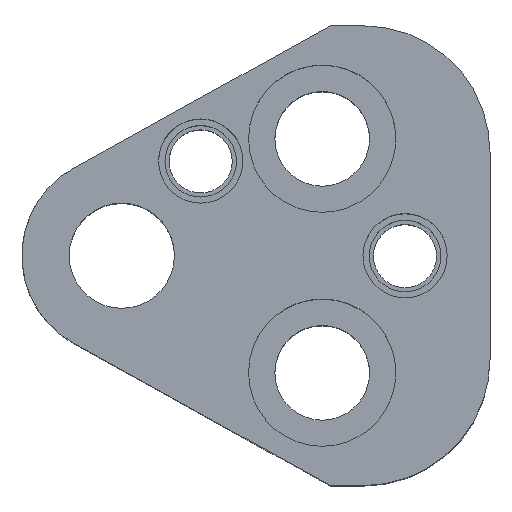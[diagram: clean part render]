
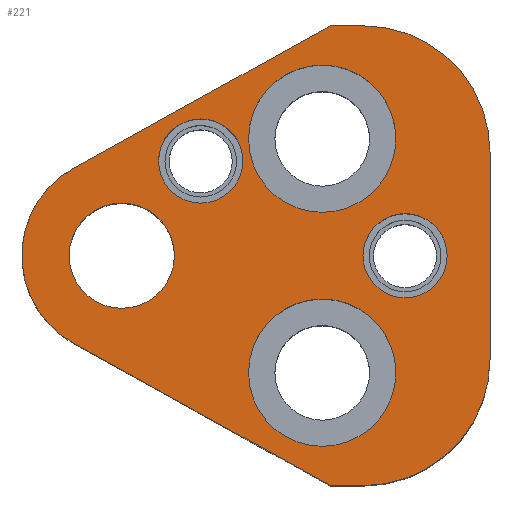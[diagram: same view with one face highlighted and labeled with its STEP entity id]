
A CAD part, top view. The second image highlights one B-rep face of the part: STEP entity #221.
In plain terms, the highlighted planar face has unit normal (0, 0, 1).
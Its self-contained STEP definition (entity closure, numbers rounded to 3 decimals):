
#104=FACE_BOUND('',#319,.T.);
#105=FACE_BOUND('',#320,.T.);
#106=FACE_BOUND('',#321,.T.);
#107=FACE_BOUND('',#322,.T.);
#108=FACE_BOUND('',#323,.T.);
#109=FACE_BOUND('',#324,.T.);
#149=CIRCLE('',#871,12.);
#151=CIRCLE('',#875,12.);
#161=CIRCLE('',#892,7.);
#163=CIRCLE('',#895,7.);
#165=CIRCLE('',#899,7.);
#167=CIRCLE('',#902,7.);
#169=CIRCLE('',#906,9.5);
#170=CIRCLE('',#907,4.);
#171=CIRCLE('',#908,4.);
#172=CIRCLE('',#909,4.);
#173=CIRCLE('',#910,4.);
#174=CIRCLE('',#911,5.);
#175=CIRCLE('',#912,5.);
#221=ADVANCED_FACE('',(#104,#105,#106,#107,#108,#109),#255,.T.);
#255=PLANE('',#913);
#319=EDGE_LOOP('',(#424,#425,#426,#427,#428,#429,#430,#431));
#320=EDGE_LOOP('',(#432,#433));
#321=EDGE_LOOP('',(#434,#435));
#322=EDGE_LOOP('',(#436,#437));
#323=EDGE_LOOP('',(#438,#439));
#324=EDGE_LOOP('',(#440,#441));
#424=ORIENTED_EDGE('',*,*,#696,.T.);
#425=ORIENTED_EDGE('',*,*,#654,.T.);
#426=ORIENTED_EDGE('',*,*,#658,.T.);
#427=ORIENTED_EDGE('',*,*,#661,.T.);
#428=ORIENTED_EDGE('',*,*,#664,.T.);
#429=ORIENTED_EDGE('',*,*,#667,.T.);
#430=ORIENTED_EDGE('',*,*,#670,.T.);
#431=ORIENTED_EDGE('',*,*,#697,.T.);
#432=ORIENTED_EDGE('',*,*,#698,.F.);
#433=ORIENTED_EDGE('',*,*,#699,.F.);
#434=ORIENTED_EDGE('',*,*,#700,.F.);
#435=ORIENTED_EDGE('',*,*,#701,.F.);
#436=ORIENTED_EDGE('',*,*,#694,.F.);
#437=ORIENTED_EDGE('',*,*,#690,.F.);
#438=ORIENTED_EDGE('',*,*,#688,.F.);
#439=ORIENTED_EDGE('',*,*,#684,.F.);
#440=ORIENTED_EDGE('',*,*,#702,.T.);
#441=ORIENTED_EDGE('',*,*,#703,.T.);
#581=VERTEX_POINT('',#1228);
#582=VERTEX_POINT('',#1230);
#585=VERTEX_POINT('',#1237);
#587=VERTEX_POINT('',#1243);
#589=VERTEX_POINT('',#1249);
#591=VERTEX_POINT('',#1255);
#593=VERTEX_POINT('',#1261);
#602=VERTEX_POINT('',#1290);
#603=VERTEX_POINT('',#1291);
#606=VERTEX_POINT('',#1303);
#607=VERTEX_POINT('',#1304);
#610=VERTEX_POINT('',#1316);
#611=VERTEX_POINT('',#1319);
#612=VERTEX_POINT('',#1320);
#613=VERTEX_POINT('',#1323);
#614=VERTEX_POINT('',#1324);
#615=VERTEX_POINT('',#1327);
#616=VERTEX_POINT('',#1328);
#654=EDGE_CURVE('',#582,#581,#764,.T.);
#658=EDGE_CURVE('',#581,#585,#149,.T.);
#661=EDGE_CURVE('',#585,#587,#769,.T.);
#664=EDGE_CURVE('',#587,#589,#151,.T.);
#667=EDGE_CURVE('',#589,#591,#773,.T.);
#670=EDGE_CURVE('',#591,#593,#776,.T.);
#684=EDGE_CURVE('',#602,#603,#161,.T.);
#688=EDGE_CURVE('',#603,#602,#163,.T.);
#690=EDGE_CURVE('',#606,#607,#165,.T.);
#694=EDGE_CURVE('',#607,#606,#167,.T.);
#696=EDGE_CURVE('',#610,#582,#786,.T.);
#697=EDGE_CURVE('',#593,#610,#169,.T.);
#698=EDGE_CURVE('',#611,#612,#170,.T.);
#699=EDGE_CURVE('',#612,#611,#171,.T.);
#700=EDGE_CURVE('',#613,#614,#172,.T.);
#701=EDGE_CURVE('',#614,#613,#173,.T.);
#702=EDGE_CURVE('',#615,#616,#174,.T.);
#703=EDGE_CURVE('',#616,#615,#175,.T.);
#764=LINE('',#1229,#817);
#769=LINE('',#1244,#822);
#773=LINE('',#1256,#826);
#776=LINE('',#1262,#829);
#786=LINE('',#1315,#839);
#817=VECTOR('',#973,1.);
#822=VECTOR('',#986,1.);
#826=VECTOR('',#998,1.);
#829=VECTOR('',#1003,1.);
#839=VECTOR('',#1067,1.);
#871=AXIS2_PLACEMENT_3D('',#1238,#979,#980);
#875=AXIS2_PLACEMENT_3D('',#1250,#991,#992);
#892=AXIS2_PLACEMENT_3D('',#1289,#1035,#1036);
#895=AXIS2_PLACEMENT_3D('',#1298,#1043,#1044);
#899=AXIS2_PLACEMENT_3D('',#1302,#1051,#1052);
#902=AXIS2_PLACEMENT_3D('',#1311,#1059,#1060);
#906=AXIS2_PLACEMENT_3D('',#1317,#1068,#1069);
#907=AXIS2_PLACEMENT_3D('',#1318,#1070,#1071);
#908=AXIS2_PLACEMENT_3D('',#1321,#1072,#1073);
#909=AXIS2_PLACEMENT_3D('',#1322,#1074,#1075);
#910=AXIS2_PLACEMENT_3D('',#1325,#1076,#1077);
#911=AXIS2_PLACEMENT_3D('',#1326,#1078,#1079);
#912=AXIS2_PLACEMENT_3D('',#1329,#1080,#1081);
#913=AXIS2_PLACEMENT_3D('',#1330,#1082,#1083);
#973=DIRECTION('',(1.,0.,0.));
#979=DIRECTION('',(0.,0.,1.));
#980=DIRECTION('',(-0.707,0.707,0.));
#986=DIRECTION('',(0.,1.,0.));
#991=DIRECTION('',(0.,0.,1.));
#992=DIRECTION('',(-0.707,-0.707,0.));
#998=DIRECTION('',(-1.,0.,0.));
#1003=DIRECTION('',(-0.875,-0.485,0.));
#1035=DIRECTION('',(0.,0.,1.));
#1036=DIRECTION('',(-1.,0.,0.));
#1043=DIRECTION('',(0.,0.,1.));
#1044=DIRECTION('',(1.,0.,0.));
#1051=DIRECTION('',(0.,0.,1.));
#1052=DIRECTION('',(-1.,0.,0.));
#1059=DIRECTION('',(0.,0.,1.));
#1060=DIRECTION('',(1.,0.,0.));
#1067=DIRECTION('',(0.875,-0.485,0.));
#1068=DIRECTION('',(0.,0.,1.));
#1069=DIRECTION('',(1.,0.,0.));
#1070=DIRECTION('',(0.,0.,1.));
#1071=DIRECTION('',(1.,0.,0.));
#1072=DIRECTION('',(0.,0.,1.));
#1073=DIRECTION('',(-1.,0.,0.));
#1074=DIRECTION('',(0.,0.,1.));
#1075=DIRECTION('',(1.,0.,0.));
#1076=DIRECTION('',(0.,0.,1.));
#1077=DIRECTION('',(-1.,0.,0.));
#1078=DIRECTION('',(0.,0.,-1.));
#1079=DIRECTION('',(-1.,0.,0.));
#1080=DIRECTION('',(0.,0.,-1.));
#1081=DIRECTION('',(1.,0.,0.));
#1082=DIRECTION('',(0.,0.,1.));
#1083=DIRECTION('',(-0.875,0.485,0.));
#1228=CARTESIAN_POINT('',(23.,-21.85,32.));
#1229=CARTESIAN_POINT('',(19.823,-21.85,32.));
#1230=CARTESIAN_POINT('',(19.823,-21.85,32.));
#1237=CARTESIAN_POINT('',(35.,-9.85,32.));
#1238=CARTESIAN_POINT('',(23.,-9.85,32.));
#1243=CARTESIAN_POINT('',(35.,9.85,32.));
#1244=CARTESIAN_POINT('',(35.,9.85,32.));
#1249=CARTESIAN_POINT('',(23.,21.85,32.));
#1250=CARTESIAN_POINT('',(23.,9.85,32.));
#1255=CARTESIAN_POINT('',(19.823,21.85,32.));
#1256=CARTESIAN_POINT('',(19.823,21.85,32.));
#1261=CARTESIAN_POINT('',(-4.606,8.309,32.));
#1262=CARTESIAN_POINT('',(19.823,21.85,32.));
#1289=CARTESIAN_POINT('',(19.05,-11.12,32.));
#1290=CARTESIAN_POINT('',(19.05,-18.12,32.));
#1291=CARTESIAN_POINT('',(19.05,-4.12,32.));
#1298=CARTESIAN_POINT('',(19.05,-11.12,32.));
#1302=CARTESIAN_POINT('',(19.05,11.12,32.));
#1303=CARTESIAN_POINT('',(19.05,4.12,32.));
#1304=CARTESIAN_POINT('',(19.05,18.12,32.));
#1311=CARTESIAN_POINT('',(19.05,11.12,32.));
#1315=CARTESIAN_POINT('',(19.823,-21.85,32.));
#1316=CARTESIAN_POINT('',(-4.606,-8.309,32.));
#1317=CARTESIAN_POINT('',(0.,0.,32.));
#1318=CARTESIAN_POINT('',(26.925,0.,32.));
#1319=CARTESIAN_POINT('',(26.925,4.,32.));
#1320=CARTESIAN_POINT('',(26.925,-4.,32.));
#1321=CARTESIAN_POINT('',(26.925,0.,32.));
#1322=CARTESIAN_POINT('',(7.5,9.,32.));
#1323=CARTESIAN_POINT('',(7.5,13.,32.));
#1324=CARTESIAN_POINT('',(7.5,5.,32.));
#1325=CARTESIAN_POINT('',(7.5,9.,32.));
#1326=CARTESIAN_POINT('',(0.,0.,32.));
#1327=CARTESIAN_POINT('',(0.,5.,32.));
#1328=CARTESIAN_POINT('',(0.,-5.,32.));
#1329=CARTESIAN_POINT('',(0.,0.,32.));
#1330=CARTESIAN_POINT('',(-4.606,-8.309,32.));
